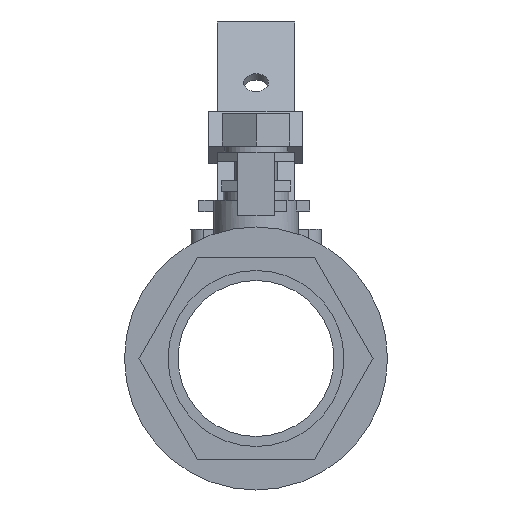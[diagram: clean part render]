
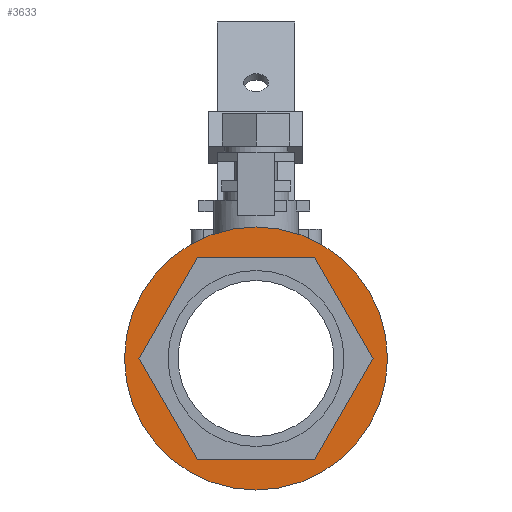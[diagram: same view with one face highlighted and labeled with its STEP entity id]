
A CAD part, left-side view. The second image highlights one B-rep face of the part: STEP entity #3633.
In plain terms, the highlighted planar face has unit normal (-1, 0, 0).
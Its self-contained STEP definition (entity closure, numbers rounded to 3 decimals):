
#3565 = CYLINDRICAL_SURFACE('',#3566,1.661);
#3566 = AXIS2_PLACEMENT_3D('',#3567,#3568,#3569);
#3567 = CARTESIAN_POINT('',(0.73,0.,0.
    ));
#3568 = DIRECTION('',(1.,0.,0.));
#3569 = DIRECTION('',(0.,-1.,0.));
#3585 = VERTEX_POINT('',#3586);
#3586 = CARTESIAN_POINT('',(0.73,-1.661,0.));
#3606 = EDGE_CURVE('',#3585,#3585,#3607,.T.);
#3607 = SURFACE_CURVE('',#3608,(#3613,#3620),.PCURVE_S1.);
#3608 = CIRCLE('',#3609,1.661);
#3609 = AXIS2_PLACEMENT_3D('',#3610,#3611,#3612);
#3610 = CARTESIAN_POINT('',(0.73,0.,0.
    ));
#3611 = DIRECTION('',(-1.,0.,0.));
#3612 = DIRECTION('',(0.,-1.,0.));
#3613 = PCURVE('',#3565,#3614);
#3614 = DEFINITIONAL_REPRESENTATION('',(#3615),#3619);
#3615 = LINE('',#3616,#3617);
#3616 = CARTESIAN_POINT('',(6.283,0.));
#3617 = VECTOR('',#3618,1.);
#3618 = DIRECTION('',(-1.,0.));
#3619 = ( GEOMETRIC_REPRESENTATION_CONTEXT(2) 
PARAMETRIC_REPRESENTATION_CONTEXT() REPRESENTATION_CONTEXT('2D SPACE',''
  ) );
#3620 = PCURVE('',#3621,#3626);
#3621 = PLANE('',#3622);
#3622 = AXIS2_PLACEMENT_3D('',#3623,#3624,#3625);
#3623 = CARTESIAN_POINT('',(0.73,0.,0.
    ));
#3624 = DIRECTION('',(-1.,0.,0.));
#3625 = DIRECTION('',(0.,0.,1.));
#3626 = DEFINITIONAL_REPRESENTATION('',(#3627),#3631);
#3627 = CIRCLE('',#3628,1.661);
#3628 = AXIS2_PLACEMENT_2D('',#3629,#3630);
#3629 = CARTESIAN_POINT('',(0.,0.));
#3630 = DIRECTION('',(0.,-1.));
#3631 = ( GEOMETRIC_REPRESENTATION_CONTEXT(2) 
PARAMETRIC_REPRESENTATION_CONTEXT() REPRESENTATION_CONTEXT('2D SPACE',''
  ) );
#3633 = ADVANCED_FACE('',(#3634,#3804),#3621,.T.);
#3634 = FACE_BOUND('',#3635,.T.);
#3635 = EDGE_LOOP('',(#3636,#3666,#3694,#3722,#3750,#3778));
#3636 = ORIENTED_EDGE('',*,*,#3637,.F.);
#3637 = EDGE_CURVE('',#3638,#3640,#3642,.T.);
#3638 = VERTEX_POINT('',#3639);
#3639 = CARTESIAN_POINT('',(0.73,-1.478,0.));
#3640 = VERTEX_POINT('',#3641);
#3641 = CARTESIAN_POINT('',(0.73,-0.739,1.28));
#3642 = SURFACE_CURVE('',#3643,(#3647,#3654),.PCURVE_S1.);
#3643 = LINE('',#3644,#3645);
#3644 = CARTESIAN_POINT('',(0.73,-1.478,0.));
#3645 = VECTOR('',#3646,1.);
#3646 = DIRECTION('',(0.,0.5,0.866));
#3647 = PCURVE('',#3621,#3648);
#3648 = DEFINITIONAL_REPRESENTATION('',(#3649),#3653);
#3649 = LINE('',#3650,#3651);
#3650 = CARTESIAN_POINT('',(0.,-1.478));
#3651 = VECTOR('',#3652,1.);
#3652 = DIRECTION('',(0.866,0.5));
#3653 = ( GEOMETRIC_REPRESENTATION_CONTEXT(2) 
PARAMETRIC_REPRESENTATION_CONTEXT() REPRESENTATION_CONTEXT('2D SPACE',''
  ) );
#3654 = PCURVE('',#3655,#3660);
#3655 = PLANE('',#3656);
#3656 = AXIS2_PLACEMENT_3D('',#3657,#3658,#3659);
#3657 = CARTESIAN_POINT('',(0.,-1.109,0.64));
#3658 = DIRECTION('',(0.,-0.866,0.5));
#3659 = DIRECTION('',(0.,-0.5,-0.866));
#3660 = DEFINITIONAL_REPRESENTATION('',(#3661),#3665);
#3661 = LINE('',#3662,#3663);
#3662 = CARTESIAN_POINT('',(0.739,0.73));
#3663 = VECTOR('',#3664,1.);
#3664 = DIRECTION('',(-1.,0.));
#3665 = ( GEOMETRIC_REPRESENTATION_CONTEXT(2) 
PARAMETRIC_REPRESENTATION_CONTEXT() REPRESENTATION_CONTEXT('2D SPACE',''
  ) );
#3666 = ORIENTED_EDGE('',*,*,#3667,.F.);
#3667 = EDGE_CURVE('',#3668,#3638,#3670,.T.);
#3668 = VERTEX_POINT('',#3669);
#3669 = CARTESIAN_POINT('',(0.73,-0.739,-1.28));
#3670 = SURFACE_CURVE('',#3671,(#3675,#3682),.PCURVE_S1.);
#3671 = LINE('',#3672,#3673);
#3672 = CARTESIAN_POINT('',(0.73,-0.739,-1.28));
#3673 = VECTOR('',#3674,1.);
#3674 = DIRECTION('',(0.,-0.5,0.866));
#3675 = PCURVE('',#3621,#3676);
#3676 = DEFINITIONAL_REPRESENTATION('',(#3677),#3681);
#3677 = LINE('',#3678,#3679);
#3678 = CARTESIAN_POINT('',(-1.28,-0.739));
#3679 = VECTOR('',#3680,1.);
#3680 = DIRECTION('',(0.866,-0.5));
#3681 = ( GEOMETRIC_REPRESENTATION_CONTEXT(2) 
PARAMETRIC_REPRESENTATION_CONTEXT() REPRESENTATION_CONTEXT('2D SPACE',''
  ) );
#3682 = PCURVE('',#3683,#3688);
#3683 = PLANE('',#3684);
#3684 = AXIS2_PLACEMENT_3D('',#3685,#3686,#3687);
#3685 = CARTESIAN_POINT('',(0.,-1.109,-0.64));
#3686 = DIRECTION('',(0.,-0.866,-0.5));
#3687 = DIRECTION('',(0.,0.5,-0.866));
#3688 = DEFINITIONAL_REPRESENTATION('',(#3689),#3693);
#3689 = LINE('',#3690,#3691);
#3690 = CARTESIAN_POINT('',(0.739,0.73));
#3691 = VECTOR('',#3692,1.);
#3692 = DIRECTION('',(-1.,0.));
#3693 = ( GEOMETRIC_REPRESENTATION_CONTEXT(2) 
PARAMETRIC_REPRESENTATION_CONTEXT() REPRESENTATION_CONTEXT('2D SPACE',''
  ) );
#3694 = ORIENTED_EDGE('',*,*,#3695,.F.);
#3695 = EDGE_CURVE('',#3696,#3668,#3698,.T.);
#3696 = VERTEX_POINT('',#3697);
#3697 = CARTESIAN_POINT('',(0.73,0.739,-1.28));
#3698 = SURFACE_CURVE('',#3699,(#3703,#3710),.PCURVE_S1.);
#3699 = LINE('',#3700,#3701);
#3700 = CARTESIAN_POINT('',(0.73,0.739,-1.28));
#3701 = VECTOR('',#3702,1.);
#3702 = DIRECTION('',(0.,-1.,0.));
#3703 = PCURVE('',#3621,#3704);
#3704 = DEFINITIONAL_REPRESENTATION('',(#3705),#3709);
#3705 = LINE('',#3706,#3707);
#3706 = CARTESIAN_POINT('',(-1.28,0.739));
#3707 = VECTOR('',#3708,1.);
#3708 = DIRECTION('',(0.,-1.));
#3709 = ( GEOMETRIC_REPRESENTATION_CONTEXT(2) 
PARAMETRIC_REPRESENTATION_CONTEXT() REPRESENTATION_CONTEXT('2D SPACE',''
  ) );
#3710 = PCURVE('',#3711,#3716);
#3711 = PLANE('',#3712);
#3712 = AXIS2_PLACEMENT_3D('',#3713,#3714,#3715);
#3713 = CARTESIAN_POINT('',(0.,0.,-1.28));
#3714 = DIRECTION('',(0.,0.,-1.));
#3715 = DIRECTION('',(0.,1.,0.));
#3716 = DEFINITIONAL_REPRESENTATION('',(#3717),#3721);
#3717 = LINE('',#3718,#3719);
#3718 = CARTESIAN_POINT('',(0.739,0.73));
#3719 = VECTOR('',#3720,1.);
#3720 = DIRECTION('',(-1.,0.));
#3721 = ( GEOMETRIC_REPRESENTATION_CONTEXT(2) 
PARAMETRIC_REPRESENTATION_CONTEXT() REPRESENTATION_CONTEXT('2D SPACE',''
  ) );
#3722 = ORIENTED_EDGE('',*,*,#3723,.F.);
#3723 = EDGE_CURVE('',#3724,#3696,#3726,.T.);
#3724 = VERTEX_POINT('',#3725);
#3725 = CARTESIAN_POINT('',(0.73,1.478,0.));
#3726 = SURFACE_CURVE('',#3727,(#3731,#3738),.PCURVE_S1.);
#3727 = LINE('',#3728,#3729);
#3728 = CARTESIAN_POINT('',(0.73,1.478,0.));
#3729 = VECTOR('',#3730,1.);
#3730 = DIRECTION('',(0.,-0.5,-0.866));
#3731 = PCURVE('',#3621,#3732);
#3732 = DEFINITIONAL_REPRESENTATION('',(#3733),#3737);
#3733 = LINE('',#3734,#3735);
#3734 = CARTESIAN_POINT('',(0.,1.478));
#3735 = VECTOR('',#3736,1.);
#3736 = DIRECTION('',(-0.866,-0.5));
#3737 = ( GEOMETRIC_REPRESENTATION_CONTEXT(2) 
PARAMETRIC_REPRESENTATION_CONTEXT() REPRESENTATION_CONTEXT('2D SPACE',''
  ) );
#3738 = PCURVE('',#3739,#3744);
#3739 = PLANE('',#3740);
#3740 = AXIS2_PLACEMENT_3D('',#3741,#3742,#3743);
#3741 = CARTESIAN_POINT('',(0.,1.109,-0.64));
#3742 = DIRECTION('',(0.,0.866,-0.5));
#3743 = DIRECTION('',(0.,0.5,0.866));
#3744 = DEFINITIONAL_REPRESENTATION('',(#3745),#3749);
#3745 = LINE('',#3746,#3747);
#3746 = CARTESIAN_POINT('',(0.739,0.73));
#3747 = VECTOR('',#3748,1.);
#3748 = DIRECTION('',(-1.,0.));
#3749 = ( GEOMETRIC_REPRESENTATION_CONTEXT(2) 
PARAMETRIC_REPRESENTATION_CONTEXT() REPRESENTATION_CONTEXT('2D SPACE',''
  ) );
#3750 = ORIENTED_EDGE('',*,*,#3751,.F.);
#3751 = EDGE_CURVE('',#3752,#3724,#3754,.T.);
#3752 = VERTEX_POINT('',#3753);
#3753 = CARTESIAN_POINT('',(0.73,0.739,1.28));
#3754 = SURFACE_CURVE('',#3755,(#3759,#3766),.PCURVE_S1.);
#3755 = LINE('',#3756,#3757);
#3756 = CARTESIAN_POINT('',(0.73,0.739,1.28));
#3757 = VECTOR('',#3758,1.);
#3758 = DIRECTION('',(0.,0.5,-0.866));
#3759 = PCURVE('',#3621,#3760);
#3760 = DEFINITIONAL_REPRESENTATION('',(#3761),#3765);
#3761 = LINE('',#3762,#3763);
#3762 = CARTESIAN_POINT('',(1.28,0.739));
#3763 = VECTOR('',#3764,1.);
#3764 = DIRECTION('',(-0.866,0.5));
#3765 = ( GEOMETRIC_REPRESENTATION_CONTEXT(2) 
PARAMETRIC_REPRESENTATION_CONTEXT() REPRESENTATION_CONTEXT('2D SPACE',''
  ) );
#3766 = PCURVE('',#3767,#3772);
#3767 = PLANE('',#3768);
#3768 = AXIS2_PLACEMENT_3D('',#3769,#3770,#3771);
#3769 = CARTESIAN_POINT('',(0.,1.109,0.64));
#3770 = DIRECTION('',(0.,0.866,0.5));
#3771 = DIRECTION('',(0.,-0.5,0.866));
#3772 = DEFINITIONAL_REPRESENTATION('',(#3773),#3777);
#3773 = LINE('',#3774,#3775);
#3774 = CARTESIAN_POINT('',(0.739,0.73));
#3775 = VECTOR('',#3776,1.);
#3776 = DIRECTION('',(-1.,0.));
#3777 = ( GEOMETRIC_REPRESENTATION_CONTEXT(2) 
PARAMETRIC_REPRESENTATION_CONTEXT() REPRESENTATION_CONTEXT('2D SPACE',''
  ) );
#3778 = ORIENTED_EDGE('',*,*,#3779,.F.);
#3779 = EDGE_CURVE('',#3640,#3752,#3780,.T.);
#3780 = SURFACE_CURVE('',#3781,(#3785,#3792),.PCURVE_S1.);
#3781 = LINE('',#3782,#3783);
#3782 = CARTESIAN_POINT('',(0.73,-0.739,1.28));
#3783 = VECTOR('',#3784,1.);
#3784 = DIRECTION('',(0.,1.,0.));
#3785 = PCURVE('',#3621,#3786);
#3786 = DEFINITIONAL_REPRESENTATION('',(#3787),#3791);
#3787 = LINE('',#3788,#3789);
#3788 = CARTESIAN_POINT('',(1.28,-0.739));
#3789 = VECTOR('',#3790,1.);
#3790 = DIRECTION('',(0.,1.));
#3791 = ( GEOMETRIC_REPRESENTATION_CONTEXT(2) 
PARAMETRIC_REPRESENTATION_CONTEXT() REPRESENTATION_CONTEXT('2D SPACE',''
  ) );
#3792 = PCURVE('',#3793,#3798);
#3793 = PLANE('',#3794);
#3794 = AXIS2_PLACEMENT_3D('',#3795,#3796,#3797);
#3795 = CARTESIAN_POINT('',(0.,0.,1.28));
#3796 = DIRECTION('',(0.,0.,1.));
#3797 = DIRECTION('',(0.,-1.,0.));
#3798 = DEFINITIONAL_REPRESENTATION('',(#3799),#3803);
#3799 = LINE('',#3800,#3801);
#3800 = CARTESIAN_POINT('',(0.739,0.73));
#3801 = VECTOR('',#3802,1.);
#3802 = DIRECTION('',(-1.,0.));
#3803 = ( GEOMETRIC_REPRESENTATION_CONTEXT(2) 
PARAMETRIC_REPRESENTATION_CONTEXT() REPRESENTATION_CONTEXT('2D SPACE',''
  ) );
#3804 = FACE_BOUND('',#3805,.T.);
#3805 = EDGE_LOOP('',(#3806));
#3806 = ORIENTED_EDGE('',*,*,#3606,.T.);
